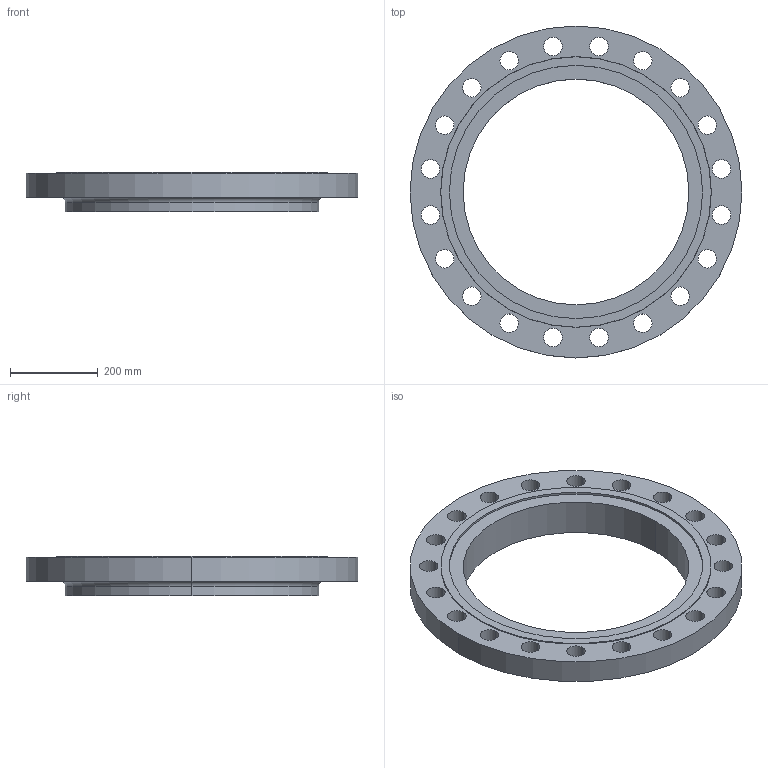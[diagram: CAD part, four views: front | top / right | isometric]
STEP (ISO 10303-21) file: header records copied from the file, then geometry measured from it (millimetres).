
FILE_DESCRIPTION (( 'STEP AP214' ), '1' );
FILE_NAME ('PN40 DN500 Type 12 - Type F Face.STEP', '2018-12-29T01:24:07', ( '' ), ( '' ), 'SwSTEP 2.0', 'SolidWorks 2019', '' );
FILE_SCHEMA (( 'AUTOMOTIVE_DESIGN' ));
Length unit declared in the file: millimetre
Products named in the file (1): PN40 DN500 Type 12 - Type F Face
Bounding box: 755 x 755 x 90 mm (x, y, z)
Volume: 13443575.5 mm3; surface area: 901254.7 mm2
Topology: 1 solids, 1 shells, 57 faces, 154 edges, 102 vertices
Faces by surface type: cylinder 48, plane 5, torus 2, cone 2
Entity records: 1974 total; most frequent: DIRECTION 374, CARTESIAN_POINT 314, ORIENTED_EDGE 308, AXIS2_PLACEMENT_3D 162, EDGE_CURVE 154, CIRCLE 104, EDGE_LOOP 102, VERTEX_POINT 102
